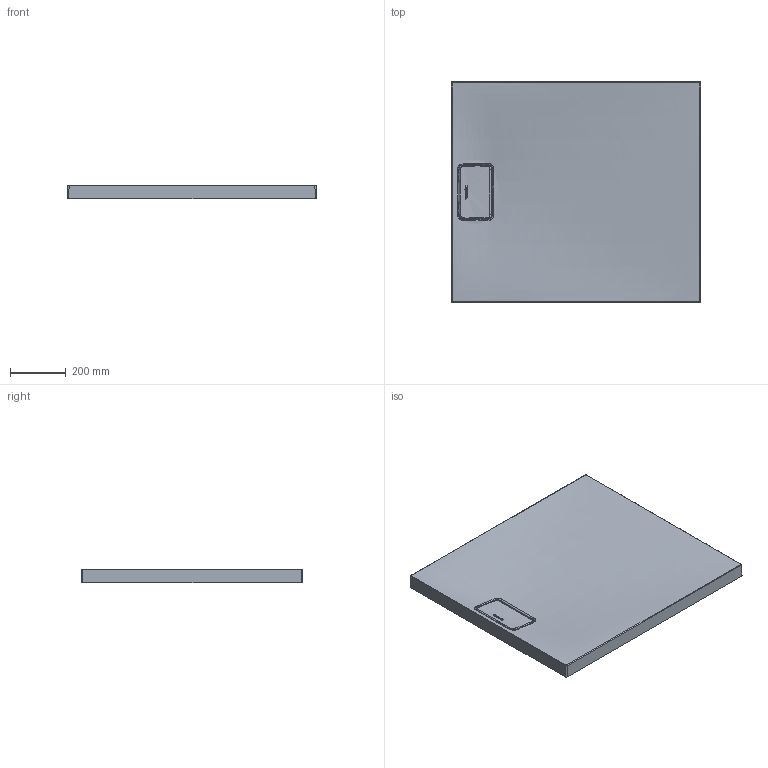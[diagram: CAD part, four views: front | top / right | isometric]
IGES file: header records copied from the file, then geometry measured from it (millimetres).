
Global section: file name: No Iges File Name specified; native system: Autodesk Inventor 2011; preprocessor: AutoDesk Inventor Iges Exporter R2011; author: Administrator; date: 20150623.082049; units: millimetre
Bounding box: 898 x 798 x 50.03 mm (x, y, z)
Volume: 9929935.8 mm3; surface area: 1855264.4 mm2
Topology: 2 solids, 2 shells, 782 faces, 2000 edges, 1247 vertices
Faces by surface type: bspline 337, plane 267, revolution 80, cylinder 71, torus 14, sphere 10, cone 3
